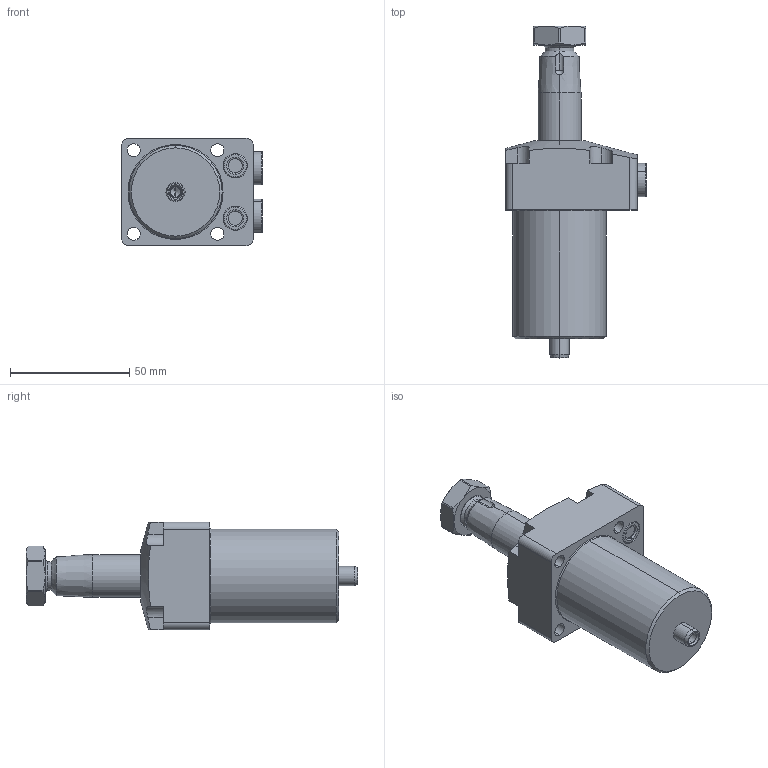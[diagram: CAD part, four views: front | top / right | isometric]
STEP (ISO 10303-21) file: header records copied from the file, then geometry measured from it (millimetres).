
FILE_DESCRIPTION(/* description */ (''),/* implementation_level */ '2;1');
FILE_NAME(/* name */ 'TRC02-LD.stp',/* time_stamp */ '2025-01-04T09:00:11+08:00',/* author */ (''),/* organization */ (''),/* preprocessor_version */ 'ST-DEVELOPER v16.7',/* originating_system */ 'SIEMENS PLM Software NX 12.0',/* authorisation */ '');
FILE_SCHEMA (('AUTOMOTIVE_DESIGN { 1 0 10303 214 3 1 1 1 }'));
Length unit declared in the file: millimetre
Products named in the file (5): TRC02-LD-01; TRC02-LD-02; TRC02-LD-03; TRC02-LD-04; TRC02-LD_stp
Assembly tree (5 placements, depth 2):
  TRC02-LD_stp
    TRC02-LD-04  x2
    TRC02-LD-03
    TRC02-LD-02
    TRC02-LD-01
Bounding box: 58.8 x 139 x 45 mm (x, y, z)
Volume: 134940 mm3; surface area: 29931.1 mm2
Topology: 5 solids, 7 shells, 219 faces, 493 edges, 301 vertices
Faces by surface type: cylinder 81, plane 69, cone 46, torus 22, sphere 1
Entity records: 5792 total; most frequent: CARTESIAN_POINT 1165, DIRECTION 1008, ORIENTED_EDGE 888, EDGE_CURVE 444, AXIS2_PLACEMENT_3D 414, VERTEX_POINT 273, EDGE_LOOP 227, CIRCLE 211
